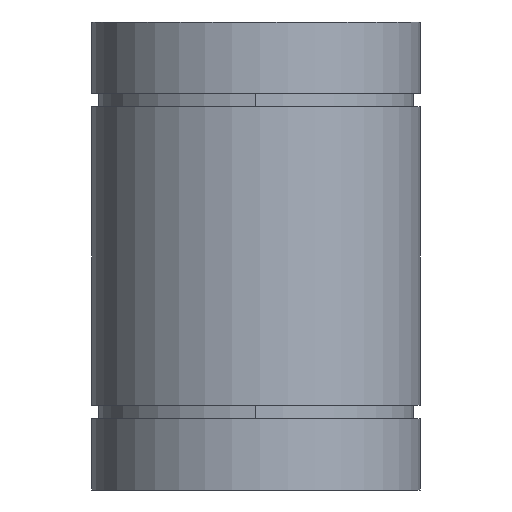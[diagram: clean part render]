
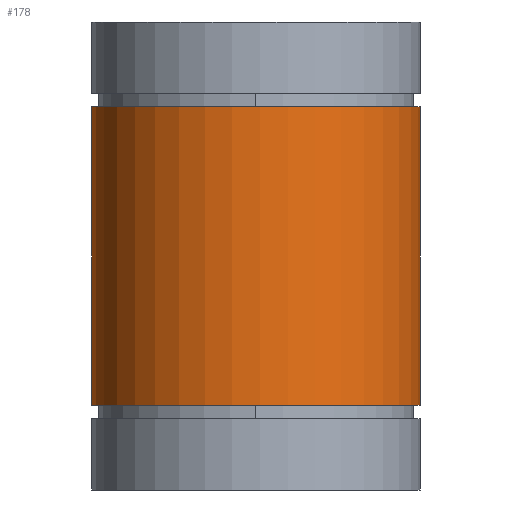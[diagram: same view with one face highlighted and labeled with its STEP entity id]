
A CAD part, front view. The second image highlights one B-rep face of the part: STEP entity #178.
In plain terms, the highlighted cylindrical face has radius 22.5 mm (diameter 45 mm), a partial arc.
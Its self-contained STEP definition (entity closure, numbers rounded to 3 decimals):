
#137=CARTESIAN_POINT('',(0.0,0.0,0.0));
#138=DIRECTION('',(0.0,0.0,1.0));
#139=DIRECTION('',(-1.0,0.0,0.0));
#140=AXIS2_PLACEMENT_3D('',#137,#138,#139);
#141=CYLINDRICAL_SURFACE('',#140,22.5);
#142=CARTESIAN_POINT('',(22.5,0.,52.4));
#143=VERTEX_POINT('',#142);
#144=CARTESIAN_POINT('',(22.5,0.,11.6));
#145=VERTEX_POINT('',#144);
#146=CARTESIAN_POINT('',(22.5,0.,52.4));
#147=DIRECTION('',(0.0,0.0,-1.0));
#148=VECTOR('',#147,40.8);
#149=LINE('',#146,#148);
#150=EDGE_CURVE('',#143,#145,#149,.T.);
#151=ORIENTED_EDGE('',*,*,#150,.F.);
#152=CARTESIAN_POINT('',(-22.465,-1.25,52.4));
#153=VERTEX_POINT('',#152);
#154=CARTESIAN_POINT('',(0.0,0.0,52.4));
#155=DIRECTION('',(0.0,0.0,-1.0));
#156=DIRECTION('',(-1.0,0.0,0.0));
#157=AXIS2_PLACEMENT_3D('',#154,#155,#156);
#158=CIRCLE('',#157,22.5);
#159=EDGE_CURVE('',#143,#153,#158,.T.);
#160=ORIENTED_EDGE('',*,*,#159,.T.);
#161=CARTESIAN_POINT('',(-22.465,-1.25,11.6));
#162=VERTEX_POINT('',#161);
#163=CARTESIAN_POINT('',(-22.465,-1.25,52.4));
#164=DIRECTION('',(0.0,0.0,-1.0));
#165=VECTOR('',#164,40.8);
#166=LINE('',#163,#165);
#167=EDGE_CURVE('',#153,#162,#166,.T.);
#168=ORIENTED_EDGE('',*,*,#167,.T.);
#169=CARTESIAN_POINT('',(0.0,0.0,11.6));
#170=DIRECTION('',(0.0,0.0,1.0));
#171=DIRECTION('',(-1.0,0.0,0.0));
#172=AXIS2_PLACEMENT_3D('',#169,#170,#171);
#173=CIRCLE('',#172,22.5);
#174=EDGE_CURVE('',#162,#145,#173,.T.);
#175=ORIENTED_EDGE('',*,*,#174,.T.);
#176=EDGE_LOOP('',(#151,#160,#168,#175));
#177=FACE_OUTER_BOUND('',#176,.T.);
#178=ADVANCED_FACE('',(#177),#141,.T.);
